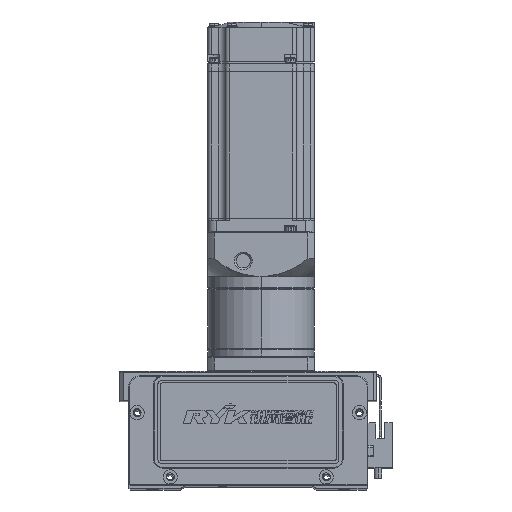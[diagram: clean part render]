
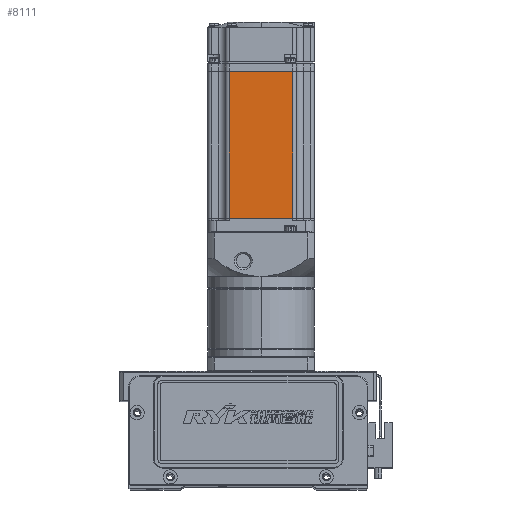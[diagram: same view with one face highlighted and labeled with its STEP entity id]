
A CAD part, top view. The second image highlights one B-rep face of the part: STEP entity #8111.
In plain terms, the highlighted planar face has unit normal (0, 0, 1).
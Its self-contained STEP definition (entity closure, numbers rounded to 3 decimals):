
#1117 = CARTESIAN_POINT ( 'NONE',  ( -6.5, -18., 30. ) ) ;
#1733 = DIRECTION ( 'NONE',  ( -1., 0., 0. ) ) ;
#3480 = LINE ( 'NONE', #60869, #16941 ) ;
#4094 = VERTEX_POINT ( 'NONE', #31497 ) ;
#4660 = EDGE_LOOP ( 'NONE', ( #8281, #41063, #54951, #14336 ) ) ;
#5868 = DIRECTION ( 'NONE',  ( 1., 0., 0. ) ) ;
#8111 = ADVANCED_FACE ( 'NONE', ( #42165 ), #54398, .T. ) ;
#8281 = ORIENTED_EDGE ( 'NONE', *, *, #8801, .F. ) ;
#8801 = EDGE_CURVE ( 'NONE', #43566, #49039, #17119, .T. ) ;
#14336 = ORIENTED_EDGE ( 'NONE', *, *, #22176, .F. ) ;
#16941 = VECTOR ( 'NONE', #16989, 1000. ) ;
#16989 = DIRECTION ( 'NONE',  ( -1., 0., 0. ) ) ;
#17119 = LINE ( 'NONE', #41780, #41297 ) ;
#17281 = DIRECTION ( 'NONE',  ( 0., -1., 0. ) ) ;
#18755 = LINE ( 'NONE', #1117, #53463 ) ;
#19129 = VERTEX_POINT ( 'NONE', #35765 ) ;
#20085 = CARTESIAN_POINT ( 'NONE',  ( -7.75, 18., 30. ) ) ;
#22176 = EDGE_CURVE ( 'NONE', #49039, #4094, #18755, .T. ) ;
#29972 = CARTESIAN_POINT ( 'NONE',  ( -6.5, -25., 30. ) ) ;
#31497 = CARTESIAN_POINT ( 'NONE',  ( -90.45, -18., 30. ) ) ;
#32325 = CARTESIAN_POINT ( 'NONE',  ( -7.75, -18., 30. ) ) ;
#35765 = CARTESIAN_POINT ( 'NONE',  ( -90.45, 18., 30. ) ) ;
#36816 = CARTESIAN_POINT ( 'NONE',  ( -90.45, 0., 30. ) ) ;
#38616 = EDGE_CURVE ( 'NONE', #19129, #4094, #47244, .T. ) ;
#39374 = EDGE_CURVE ( 'NONE', #43566, #19129, #3480, .T. ) ;
#41063 = ORIENTED_EDGE ( 'NONE', *, *, #39374, .T. ) ;
#41297 = VECTOR ( 'NONE', #17281, 1000. ) ;
#41780 = CARTESIAN_POINT ( 'NONE',  ( -7.75, 0., 30. ) ) ;
#42165 = FACE_OUTER_BOUND ( 'NONE', #4660, .T. ) ;
#42779 = VECTOR ( 'NONE', #51353, 1000. ) ;
#43566 = VERTEX_POINT ( 'NONE', #20085 ) ;
#47244 = LINE ( 'NONE', #36816, #42779 ) ;
#49039 = VERTEX_POINT ( 'NONE', #32325 ) ;
#51353 = DIRECTION ( 'NONE',  ( 0., -1., 0. ) ) ;
#53463 = VECTOR ( 'NONE', #1733, 1000. ) ;
#54398 = PLANE ( 'NONE',  #56943 ) ;
#54614 = DIRECTION ( 'NONE',  ( 0., 0., 1. ) ) ;
#54951 = ORIENTED_EDGE ( 'NONE', *, *, #38616, .T. ) ;
#56943 = AXIS2_PLACEMENT_3D ( 'NONE', #29972, #54614, #5868 ) ;
#60869 = CARTESIAN_POINT ( 'NONE',  ( -6.5, 18., 30. ) ) ;
